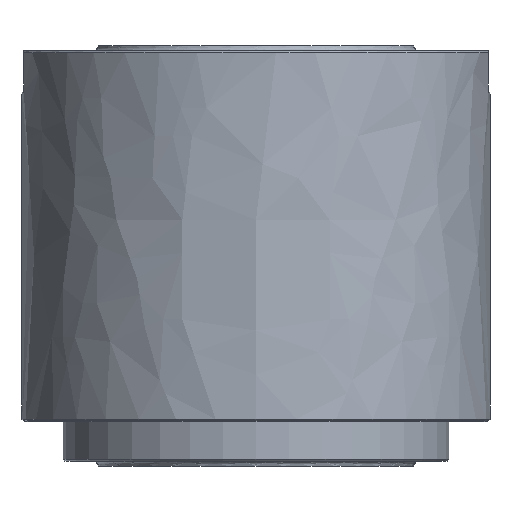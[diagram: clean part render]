
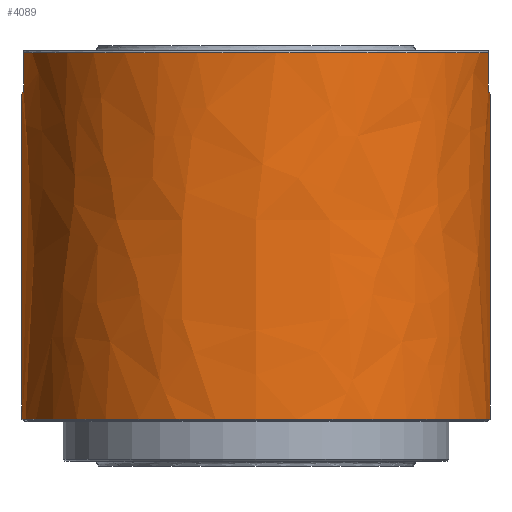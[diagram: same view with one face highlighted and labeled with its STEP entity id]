
A CAD part, left-side view. The second image highlights one B-rep face of the part: STEP entity #4089.
In plain terms, the highlighted free-form (B-spline) face has degree [9, 1] with [10, 2] control points.
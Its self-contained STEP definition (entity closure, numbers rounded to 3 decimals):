
#124=DIRECTION('',(0.,0.,1.));
#125=VECTOR('',#124,22.481);
#126=CARTESIAN_POINT('',(-16.31,-132.5,93.519));
#127=LINE('',#126,#125);
#128=CARTESIAN_POINT('',(0.,0.,93.519));
#129=DIRECTION('',(0.,0.,-1.));
#130=DIRECTION('',(0.122,-0.993,0.));
#131=AXIS2_PLACEMENT_3D('',#128,#129,#130);
#133=CARTESIAN_POINT('',(0.,0.,-93.));
#134=DIRECTION('',(0.,0.,-1.));
#135=DIRECTION('',(0.,-1.,0.));
#136=AXIS2_PLACEMENT_3D('',#133,#134,#135);
#138=CARTESIAN_POINT('',(0.,0.,93.519));
#139=DIRECTION('',(0.,0.,1.));
#140=DIRECTION('',(0.122,0.993,0.));
#141=AXIS2_PLACEMENT_3D('',#138,#139,#140);
#143=DIRECTION('',(0.,0.,1.));
#144=VECTOR('',#143,22.481);
#145=CARTESIAN_POINT('',(-16.31,132.5,93.519));
#146=LINE('',#145,#144);
#147=CARTESIAN_POINT('',(0.,0.,116.));
#148=DIRECTION('',(0.,0.,1.));
#149=DIRECTION('',(-0.122,0.993,0.));
#150=AXIS2_PLACEMENT_3D('',#147,#148,#149);
#166=CARTESIAN_POINT('',(-16.31,132.5,116.));
#182=CARTESIAN_POINT('',(-16.31,-132.5,116.));
#198=DIRECTION('',(0.,0.,-1.));
#199=VECTOR('',#198,1.519);
#200=CARTESIAN_POINT('',(16.31,-132.5,93.519));
#201=LINE('',#200,#199);
#215=DIRECTION('',(0.,0.,-1.));
#216=VECTOR('',#215,1.519);
#217=CARTESIAN_POINT('',(16.31,132.5,93.519));
#218=LINE('',#217,#216);
#219=CARTESIAN_POINT('',(0.,0.,92.));
#220=DIRECTION('',(0.,0.,-1.));
#221=DIRECTION('',(0.,1.,0.));
#222=AXIS2_PLACEMENT_3D('',#219,#220,#221);
#224=DIRECTION('',(0.,0.,-1.));
#225=VECTOR('',#224,185.);
#226=CARTESIAN_POINT('',(0.,133.5,92.));
#227=LINE('',#226,#225);
#233=DIRECTION('',(0.,0.,1.));
#234=VECTOR('',#233,185.);
#235=CARTESIAN_POINT('',(0.,-133.5,
-93.));
#236=LINE('',#235,#234);
#237=CARTESIAN_POINT('',(0.,0.,92.));
#238=DIRECTION('',(0.,0.,-1.));
#239=DIRECTION('',(0.122,-0.993,0.));
#240=AXIS2_PLACEMENT_3D('',#237,#238,#239);
#3127=VERTEX_POINT('',#182);
#3140=VERTEX_POINT('',#166);
#3289=CARTESIAN_POINT('',(0.,133.5,-93.));
#3290=CARTESIAN_POINT('',(0.,-133.5,-93.));
#3291=VERTEX_POINT('',#3289);
#3292=VERTEX_POINT('',#3290);
#3737=CARTESIAN_POINT('',(-16.31,-132.5,93.519));
#3738=CARTESIAN_POINT('',(16.31,-132.5,93.519));
#3739=VERTEX_POINT('',#3737);
#3740=VERTEX_POINT('',#3738);
#3741=CARTESIAN_POINT('',(16.31,-132.5,92.));
#3742=VERTEX_POINT('',#3741);
#3743=CARTESIAN_POINT('',(0.,-133.5,92.));
#3744=VERTEX_POINT('',#3743);
#3745=CARTESIAN_POINT('',(-16.31,132.5,93.519));
#3746=CARTESIAN_POINT('',(16.31,132.5,93.519));
#3747=VERTEX_POINT('',#3745);
#3748=VERTEX_POINT('',#3746);
#3749=CARTESIAN_POINT('',(16.31,132.5,92.));
#3750=VERTEX_POINT('',#3749);
#3751=CARTESIAN_POINT('',(0.,133.5,92.));
#3752=VERTEX_POINT('',#3751);
#4043=CARTESIAN_POINT('',(25.24,131.092,-97.18));
#4044=CARTESIAN_POINT('',(25.24,131.092,120.18));
#4045=CARTESIAN_POINT('',(-26.061,140.969,-97.18));
#4046=CARTESIAN_POINT('',(-26.061,140.969,120.18));
#4047=CARTESIAN_POINT('',(-81.711,128.261,-97.18));
#4048=CARTESIAN_POINT('',(-81.711,128.261,120.18));
#4049=CARTESIAN_POINT('',(-130.34,90.779,-97.18));
#4050=CARTESIAN_POINT('',(-130.34,90.779,120.18));
#4051=CARTESIAN_POINT('',(-159.336,33.013,-97.18));
#4052=CARTESIAN_POINT('',(-159.336,33.013,120.18));
#4053=CARTESIAN_POINT('',(-159.341,-33.013,-97.18));
#4054=CARTESIAN_POINT('',(-159.341,-33.013,120.18));
#4055=CARTESIAN_POINT('',(-130.337,-90.779,-97.18));
#4056=CARTESIAN_POINT('',(-130.337,-90.779,120.18));
#4057=CARTESIAN_POINT('',(-81.711,-128.261,-97.18));
#4058=CARTESIAN_POINT('',(-81.711,-128.261,120.18));
#4059=CARTESIAN_POINT('',(-26.061,-140.969,-97.18));
#4060=CARTESIAN_POINT('',(-26.061,-140.969,120.18));
#4061=CARTESIAN_POINT('',(25.24,-131.092,-97.18));
#4062=CARTESIAN_POINT('',(25.24,-131.092,120.18));
#4063=B_SPLINE_SURFACE_WITH_KNOTS('',9,1,((#4043,#4044),(#4045,#4046),(#4047,
#4048),(#4049,#4050),(#4051,#4052),(#4053,#4054),(#4055,#4056),(#4057,#4058),(
#4059,#4060),(#4061,#4062)),.UNSPECIFIED.,.F.,.F.,.F.,(10,10),(2,2),(
-0.19,3.332),(34.82,252.18),.UNSPECIFIED.);
#4065=ORIENTED_EDGE('',*,*,#4064,.F.);
#4067=ORIENTED_EDGE('',*,*,#4066,.F.);
#4069=ORIENTED_EDGE('',*,*,#4068,.T.);
#4071=ORIENTED_EDGE('',*,*,#4070,.T.);
#4073=ORIENTED_EDGE('',*,*,#4072,.F.);
#4074=ORIENTED_EDGE('',*,*,#4037,.T.);
#4076=ORIENTED_EDGE('',*,*,#4075,.F.);
#4078=ORIENTED_EDGE('',*,*,#4077,.T.);
#4080=ORIENTED_EDGE('',*,*,#4079,.F.);
#4082=ORIENTED_EDGE('',*,*,#4081,.T.);
#4084=ORIENTED_EDGE('',*,*,#4083,.T.);
#4086=ORIENTED_EDGE('',*,*,#4085,.T.);
#4087=EDGE_LOOP('',(#4065,#4067,#4069,#4071,#4073,#4074,#4076,#4078,#4080,#4082,
#4084,#4086));
#4088=FACE_OUTER_BOUND('',#4087,.F.);
#4089=ADVANCED_FACE('',(#4088),#4063,.T.);
#132=CIRCLE('',#131,133.5);
#137=CIRCLE('',#136,133.5);
#142=CIRCLE('',#141,133.5);
#151=CIRCLE('',#150,133.5);
#223=CIRCLE('',#222,133.5);
#241=CIRCLE('',#240,133.5);
#4037=EDGE_CURVE('',#3292,#3291,#137,.T.);
#4064=EDGE_CURVE('',#3739,#3127,#127,.T.);
#4066=EDGE_CURVE('',#3740,#3739,#132,.T.);
#4068=EDGE_CURVE('',#3740,#3742,#201,.T.);
#4070=EDGE_CURVE('',#3742,#3744,#241,.T.);
#4072=EDGE_CURVE('',#3292,#3744,#236,.T.);
#4075=EDGE_CURVE('',#3752,#3291,#227,.T.);
#4077=EDGE_CURVE('',#3752,#3750,#223,.T.);
#4079=EDGE_CURVE('',#3748,#3750,#218,.T.);
#4081=EDGE_CURVE('',#3748,#3747,#142,.T.);
#4083=EDGE_CURVE('',#3747,#3140,#146,.T.);
#4085=EDGE_CURVE('',#3140,#3127,#151,.T.);
